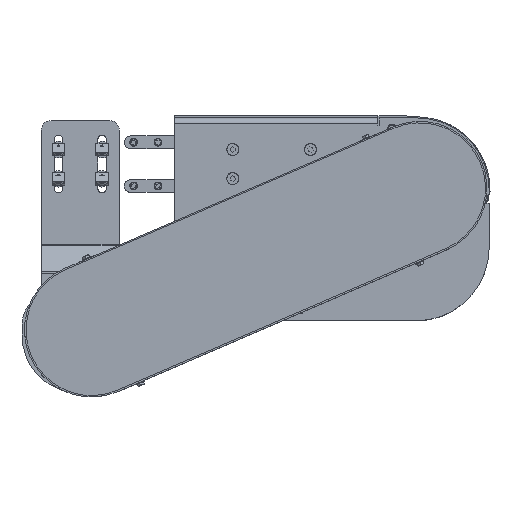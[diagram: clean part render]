
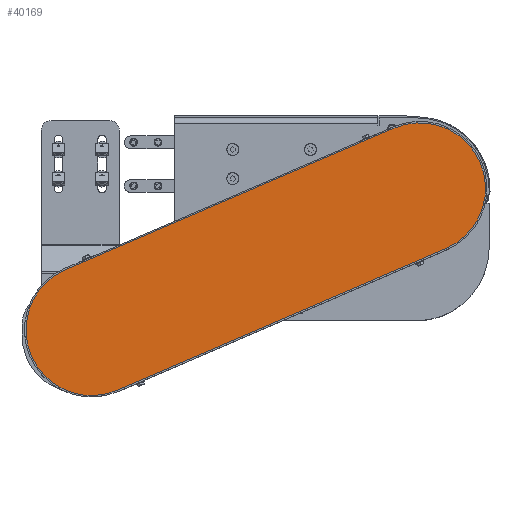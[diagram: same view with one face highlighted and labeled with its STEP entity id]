
A CAD part, top view. The second image highlights one B-rep face of the part: STEP entity #40169.
In plain terms, the highlighted planar face has unit normal (0, 0, 1).
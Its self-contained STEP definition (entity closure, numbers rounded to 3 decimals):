
#1426 = DIRECTION ( 'NONE',  ( 1., 0., 0. ) ) ;
#1474 = VECTOR ( 'NONE', #16032, 1000. ) ;
#2591 = DIRECTION ( 'NONE',  ( 0., 0., 1. ) ) ;
#3369 = CARTESIAN_POINT ( 'NONE',  ( -184., -67.5, 2. ) ) ;
#5596 = DIRECTION ( 'NONE',  ( 1., 0., 0. ) ) ;
#8163 = EDGE_CURVE ( 'NONE', #45105, #34777, #66210, .T. ) ;
#8210 = EDGE_CURVE ( 'NONE', #49950, #45105, #52040, .T. ) ;
#9068 = CARTESIAN_POINT ( 'NONE',  ( -184., -67.5, 2. ) ) ;
#10612 = CARTESIAN_POINT ( 'NONE',  ( -251.5, 0., 2. ) ) ;
#11154 = CARTESIAN_POINT ( 'NONE',  ( -184., 67.5, 2. ) ) ;
#14739 = CARTESIAN_POINT ( 'NONE',  ( 184., 67.5, 2. ) ) ;
#15053 = AXIS2_PLACEMENT_3D ( 'NONE', #58618, #26781, #63953 ) ;
#15727 = ORIENTED_EDGE ( 'NONE', *, *, #55192, .T. ) ;
#16032 = DIRECTION ( 'NONE',  ( -1., 0., 0. ) ) ;
#16689 = ORIENTED_EDGE ( 'NONE', *, *, #8210, .T. ) ;
#19217 = DIRECTION ( 'NONE',  ( 1., 0., 0. ) ) ;
#19502 = AXIS2_PLACEMENT_3D ( 'NONE', #34455, #2591, #39791 ) ;
#23316 = ORIENTED_EDGE ( 'NONE', *, *, #67989, .T. ) ;
#25756 = AXIS2_PLACEMENT_3D ( 'NONE', #65134, #33256, #1426 ) ;
#26758 = CARTESIAN_POINT ( 'NONE',  ( -184., 67.5, 2. ) ) ;
#26781 = DIRECTION ( 'NONE',  ( 0., 0., 1. ) ) ;
#29883 = LINE ( 'NONE', #3369, #58196 ) ;
#32078 = CARTESIAN_POINT ( 'NONE',  ( -184., 0., 2. ) ) ;
#33256 = DIRECTION ( 'NONE',  ( 0., 0., 1. ) ) ;
#34455 = CARTESIAN_POINT ( 'NONE',  ( 184., 0., 2. ) ) ;
#34777 = VERTEX_POINT ( 'NONE', #9068 ) ;
#35861 = VERTEX_POINT ( 'NONE', #14739 ) ;
#36077 = VERTEX_POINT ( 'NONE', #37726 ) ;
#37465 = DIRECTION ( 'NONE',  ( 0., 0., 1. ) ) ;
#37726 = CARTESIAN_POINT ( 'NONE',  ( 184., -67.5, 2. ) ) ;
#38793 = CIRCLE ( 'NONE', #19502, 67.5 ) ;
#39121 = AXIS2_PLACEMENT_3D ( 'NONE', #32078, #37465, #5596 ) ;
#39172 = EDGE_CURVE ( 'NONE', #36077, #35861, #38793, .T. ) ;
#39791 = DIRECTION ( 'NONE',  ( 1., 0., 0. ) ) ;
#40169 = ADVANCED_FACE ( 'NONE', ( #53600 ), #63964, .T. ) ;
#43218 = ORIENTED_EDGE ( 'NONE', *, *, #39172, .T. ) ;
#43885 = LINE ( 'NONE', #26758, #1474 ) ;
#44074 = ORIENTED_EDGE ( 'NONE', *, *, #8163, .T. ) ;
#45105 = VERTEX_POINT ( 'NONE', #10612 ) ;
#49950 = VERTEX_POINT ( 'NONE', #11154 ) ;
#52040 = CIRCLE ( 'NONE', #25756, 67.5 ) ;
#53600 = FACE_OUTER_BOUND ( 'NONE', #56238, .T. ) ;
#55192 = EDGE_CURVE ( 'NONE', #35861, #49950, #43885, .T. ) ;
#56238 = EDGE_LOOP ( 'NONE', ( #16689, #44074, #23316, #43218, #15727 ) ) ;
#58196 = VECTOR ( 'NONE', #19217, 1000. ) ;
#58618 = CARTESIAN_POINT ( 'NONE',  ( -184., 0., 2. ) ) ;
#63953 = DIRECTION ( 'NONE',  ( 1., 0., 0. ) ) ;
#63964 = PLANE ( 'NONE',  #39121 ) ;
#65134 = CARTESIAN_POINT ( 'NONE',  ( -184., 0., 2. ) ) ;
#66210 = CIRCLE ( 'NONE', #15053, 67.5 ) ;
#67989 = EDGE_CURVE ( 'NONE', #34777, #36077, #29883, .T. ) ;
